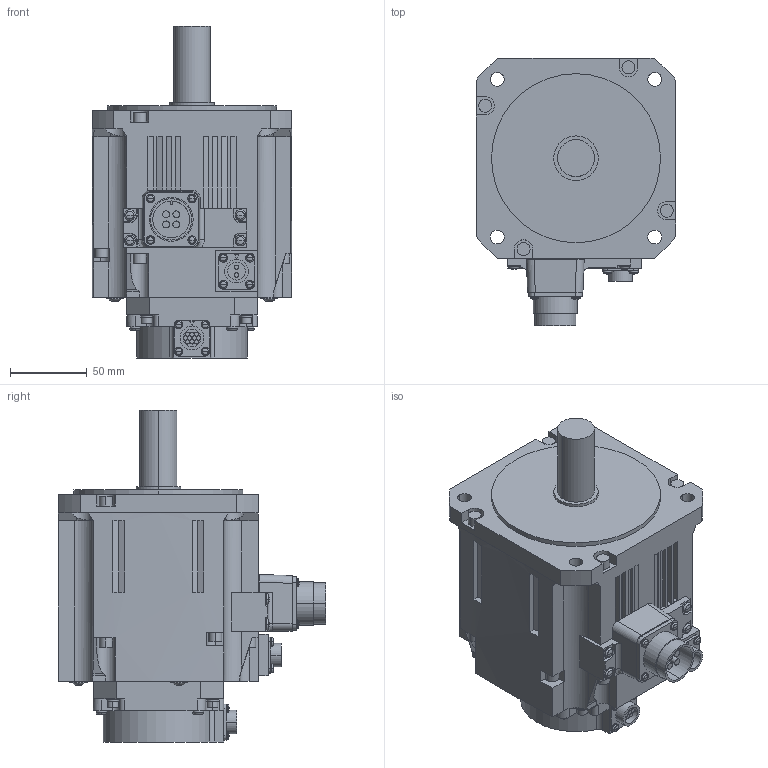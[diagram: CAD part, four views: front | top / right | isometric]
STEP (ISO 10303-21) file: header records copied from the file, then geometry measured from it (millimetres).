
FILE_DESCRIPTION((''),'2;1');
FILE_NAME('HK-ST102WB_','2019-01-17T',('XE90682'),(''),'CREO PARAMETRIC BY PTC INC, 2016380','CREO PARAMETRIC BY PTC INC, 2016380','');
FILE_SCHEMA(('CONFIG_CONTROL_DESIGN'));
Length unit declared in the file: millimetre
Products named in the file (1): HK-ST102WB_
Bounding box: 130 x 173.8 x 216 mm (x, y, z)
Volume: 2118678.7 mm3; surface area: 131330 mm2
Topology: 1 solids, 1 shells, 624 faces, 1534 edges, 968 vertices
Faces by surface type: plane 305, cylinder 223, sphere 46, torus 40, cone 8, bspline 2
Entity records: 19074 total; most frequent: CARTESIAN_POINT 4004, DIRECTION 3306, ORIENTED_EDGE 2988, EDGE_CURVE 1494, AXIS2_PLACEMENT_3D 1234, VERTEX_POINT 968, VECTOR 838, LINE 838
